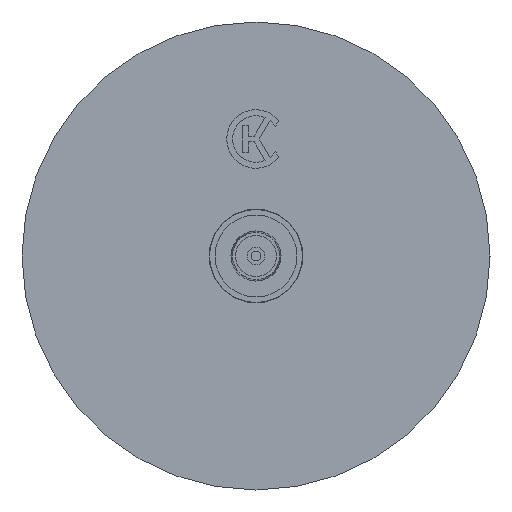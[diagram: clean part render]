
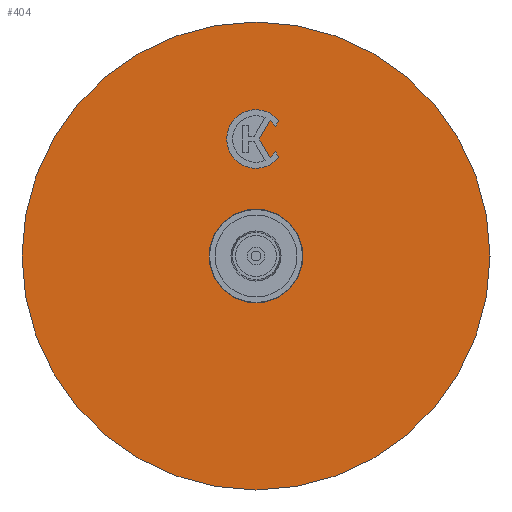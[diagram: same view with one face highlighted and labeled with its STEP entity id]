
A CAD part, left-side view. The second image highlights one B-rep face of the part: STEP entity #404.
In plain terms, the highlighted planar face has unit normal (-1, 0, 0).
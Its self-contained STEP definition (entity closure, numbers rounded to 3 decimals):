
#404=ADVANCED_FACE('',(#1767,#1769,#1771),#1773,.T.);
#1767=FACE_BOUND('',#1768,.T.);
#1768=EDGE_LOOP('',(#3002));
#1769=FACE_BOUND('',#1770,.T.);
#1770=EDGE_LOOP('',(#3003,#3004,#3005,#3006,#3007,#3008,#3009));
#1771=FACE_BOUND('',#1772,.T.);
#1772=EDGE_LOOP('',(#3010));
#1773=PLANE('',#1774);
#1774=AXIS2_PLACEMENT_3D('',#1775,#1776,#1777);
#1775=CARTESIAN_POINT('',(-30.15,0.,0.));
#1776=DIRECTION('',(-1.,0.,0.));
#1777=DIRECTION('',(0.,-1.,0.));
#3002=ORIENTED_EDGE('',*,*,#3482,.T.);
#3003=ORIENTED_EDGE('',*,*,#3483,.T.);
#3004=ORIENTED_EDGE('',*,*,#3484,.T.);
#3005=ORIENTED_EDGE('',*,*,#3485,.T.);
#3006=ORIENTED_EDGE('',*,*,#3486,.T.);
#3007=ORIENTED_EDGE('',*,*,#3487,.T.);
#3008=ORIENTED_EDGE('',*,*,#3488,.T.);
#3009=ORIENTED_EDGE('',*,*,#3489,.T.);
#3010=ORIENTED_EDGE('',*,*,#3490,.T.);
#3482=EDGE_CURVE('',#3758,#3758,#3759,.T.);
#3483=EDGE_CURVE('',#3760,#3761,#3762,.F.);
#3484=EDGE_CURVE('',#3761,#3763,#3764,.F.);
#3485=EDGE_CURVE('',#3763,#3765,#3766,.F.);
#3486=EDGE_CURVE('',#3765,#3767,#3768,.F.);
#3487=EDGE_CURVE('',#3767,#3769,#3770,.F.);
#3488=EDGE_CURVE('',#3769,#3771,#3772,.F.);
#3489=EDGE_CURVE('',#3771,#3760,#3773,.F.);
#3490=EDGE_CURVE('',#3774,#3774,#3775,.F.);
#3758=VERTEX_POINT('',#4281);
#3759=CIRCLE('',#4282,40.);
#3760=VERTEX_POINT('',#4286);
#3761=VERTEX_POINT('',#4287);
#3762=CIRCLE('',#4288,4.);
#3763=VERTEX_POINT('',#4292);
#3764=LINE('',#4293,#4294);
#3765=VERTEX_POINT('',#4296);
#3766=CIRCLE('',#4297,5.);
#3767=VERTEX_POINT('',#4301);
#3768=LINE('',#4302,#4303);
#3769=VERTEX_POINT('',#4305);
#3770=CIRCLE('',#4306,4.);
#3771=VERTEX_POINT('',#4310);
#3772=LINE('',#4311,#4312);
#3773=LINE('',#4314,#4315);
#3774=VERTEX_POINT('',#4317);
#3775=CIRCLE('',#4318,8.);
#4281=CARTESIAN_POINT('',(-30.15,-40.,0.));
#4282=AXIS2_PLACEMENT_3D('',#4283,#4284,#4285);
#4283=CARTESIAN_POINT('',(-30.15,0.,0.));
#4284=DIRECTION('',(-1.,0.,0.));
#4285=DIRECTION('',(0.,-1.,0.));
#4286=CARTESIAN_POINT('',(-30.15,-16.813,-2.417));
#4287=CARTESIAN_POINT('',(-30.15,-17.806,-3.345));
#4288=AXIS2_PLACEMENT_3D('',#4289,#4290,#4291);
#4289=CARTESIAN_POINT('',(-30.15,-20.,0.));
#4290=DIRECTION('',(1.,0.,0.));
#4291=DIRECTION('',(0.,0.548,-0.836));
#4292=CARTESIAN_POINT('',(-30.15,-16.86,-3.891));
#4293=CARTESIAN_POINT('',(-30.15,-16.86,-3.891));
#4294=VECTOR('',#4295,1.);
#4295=DIRECTION('',(0.,-0.866,0.5));
#4296=CARTESIAN_POINT('',(-30.15,-23.14,-3.891));
#4297=AXIS2_PLACEMENT_3D('',#4298,#4299,#4300);
#4298=CARTESIAN_POINT('',(-30.15,-20.,0.));
#4299=DIRECTION('',(-1.,0.,0.));
#4300=DIRECTION('',(0.,-0.628,-0.778));
#4301=CARTESIAN_POINT('',(-30.15,-22.194,-3.345));
#4302=CARTESIAN_POINT('',(-30.15,-22.194,-3.345));
#4303=VECTOR('',#4304,1.);
#4304=DIRECTION('',(0.,-0.866,-0.5));
#4305=CARTESIAN_POINT('',(-30.15,-23.187,-2.417));
#4306=AXIS2_PLACEMENT_3D('',#4307,#4308,#4309);
#4307=CARTESIAN_POINT('',(-30.15,-20.,0.));
#4308=DIRECTION('',(1.,0.,0.));
#4309=DIRECTION('',(0.,-0.797,-0.604));
#4310=CARTESIAN_POINT('',(-30.15,-20.,-0.577));
#4311=CARTESIAN_POINT('',(-30.15,-20.,-0.577));
#4312=VECTOR('',#4313,1.);
#4313=DIRECTION('',(0.,-0.866,-0.5));
#4314=CARTESIAN_POINT('',(-30.15,-16.813,-2.417));
#4315=VECTOR('',#4316,1.);
#4316=DIRECTION('',(0.,-0.866,0.5));
#4317=CARTESIAN_POINT('',(-30.15,0.,-8.));
#4318=AXIS2_PLACEMENT_3D('',#4319,#4320,#4321);
#4319=CARTESIAN_POINT('',(-30.15,0.,0.));
#4320=DIRECTION('',(-1.,0.,0.));
#4321=DIRECTION('',(0.,0.,-1.));
